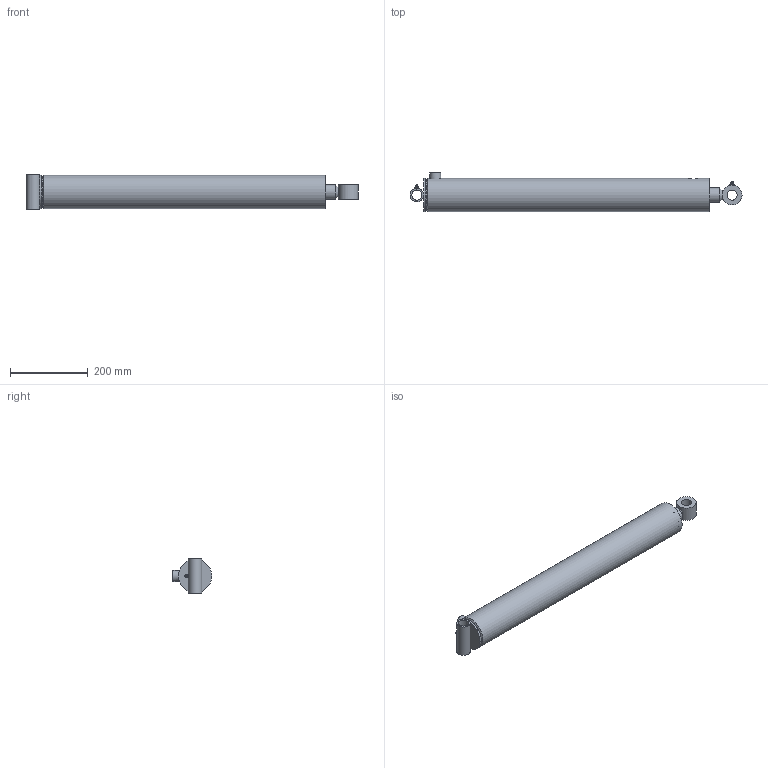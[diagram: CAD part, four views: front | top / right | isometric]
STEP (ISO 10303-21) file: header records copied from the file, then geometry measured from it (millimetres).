
FILE_DESCRIPTION((''),'2;1');
FILE_NAME('C:\Documents and Settings\NewtonB\My Documents\_Vest\090122_PMC-8324\PMC-8324.stp','2009-01-29T09:57:21',('newtonb'),(''),'Autodesk Inventor 2008','Autodesk Inventor 2008','');
FILE_SCHEMA(('AUTOMOTIVE_DESIGN { 1 0 10303 214 1 1 1 1 }'));
Length unit declared in the file: inch
Products named in the file (23): PMC-8324; 061500052; 051500070; 161500007; 210400412; 200014403; 081500401; 020800286; 010800817; 210400528; 071500021; 220000210; 250001222; 240020059; 240061334; 240000334; 230001300; 240000022; 240004006; 240034334; 200018003; 270010020; 270010002
Assembly tree (25 placements, depth 3):
  PMC-8324
    061500052
      051500070
      161500007
      210400412
      200014403
    081500401
    020800286
      010800817
      210400528
    071500021
    220000210
    250001222
    240020059
    240061334
    240000334  x2
    230001300
    240000022
    240004006
    240034334  x2
    200018003  x2
    270010020
    270010002
Bounding box: 855.66 x 101.6 x 88.9 mm (x, y, z)
Volume: 2170496.1 mm3; surface area: 605793.4 mm2
Topology: 23 solids, 23 shells, 247 faces, 529 edges, 330 vertices
Faces by surface type: plane 115, cylinder 62, cone 40, torus 18, bspline 10, sphere 2
Full cylindrical faces by diameter (mm): 1.524 x2, 2.794 x2, 5.486 x1, 6.074 x1, 8.839 x1, 9.08 x1, 12.7 x1, 23.813 x1, 25.349 x1, 25.476 x1, 25.908 x1, 26.162 x1, 27.94 x1, 28.575 x1, 34.925 x1, 38.1 x2, 38.176 x2, 39.052 x1, 41.91 x1, 46.025 x2, 46.673 x1, 47.625 x1, 49.2 x1, 50.8 x1, 55.55 x1, 59.69 x1, 66.802 x1, 67.31 x3, 67.564 x1, 68.072 x1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
Entity records: 6788 total; most frequent: CARTESIAN_POINT 1836, DIRECTION 981, ORIENTED_EDGE 672, AXIS2_PLACEMENT_3D 444, EDGE_LOOP 383, EDGE_CURVE 336, VERTEX_POINT 271, FACE_OUTER_BOUND 223
